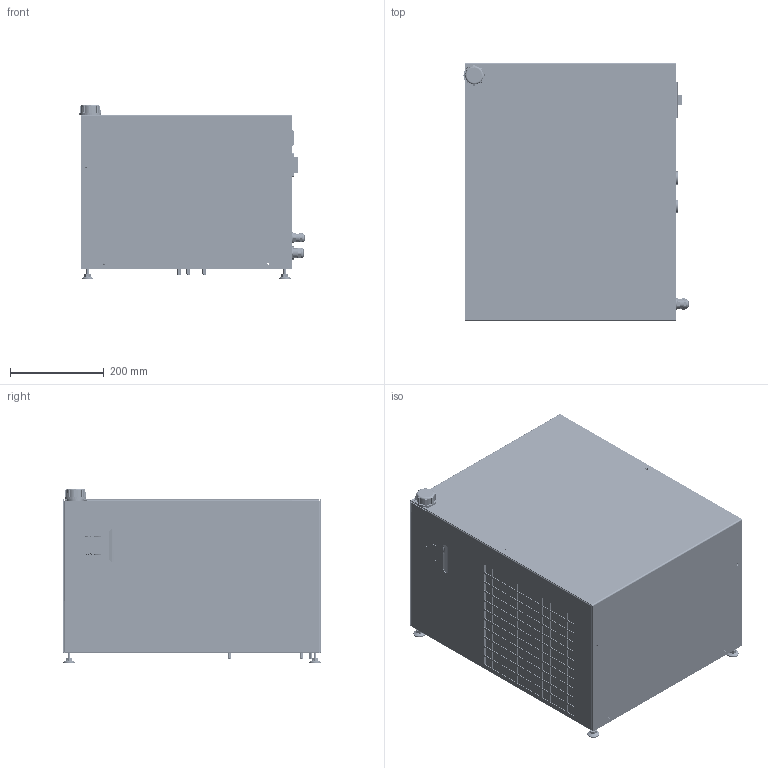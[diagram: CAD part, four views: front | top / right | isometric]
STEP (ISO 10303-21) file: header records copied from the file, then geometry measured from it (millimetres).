
FILE_DESCRIPTION (( 'STEP AP203' ), '1' );
FILE_NAME ('COPIA_LPH-12-D_REV_00.STEP', '2026-07-23T09:20:55', ( '' ), ( '' ), 'SwSTEP 2.0', 'SolidWorks 2023', '' );
FILE_SCHEMA (( 'CONFIG_CONTROL_DESIGN' ));
Length unit declared in the file: millimetre
Products named in the file (22): COPIA_ZE-PR-00002_000; COPIA_VR-1C-00062_000; COPIA_ZE-PR-00003_Cable-Gland-1.209.1102.15-Nelco; COPIA_LPH-12-D_REV_00; COPIA_VR-1C-00067_001; COPIA_PG 9_2_Nut-PA-Grey-19-19-22-Nelco; COPIA_ST-AT-00028_003; COPIA_ZP-TA-00006_1; Parte4^COPIA_43-MI-E0001; COPIA_pg11 part1_Socket-1.209.1102.15-Nelco; COPIA_ZE-GH-00002_000; COPIA_CS-PL-00042_002; COPIA_PG 9_Cable-Gland-1.209.0900.14-Nelco; COPIA_TE-EL-00007 - EW_971_230V; COPIA_pg11 part2_Nut-PA-Blue-22-22-25-Nelco; COPIA_50-1C-00025; COPIA_CO-CF-00012_1140270C01; COPIA_AN-PI-00023_000; COPIA_43-MI-E0001_43-MI-E0001-CONDENSATORE; COPIA_SE-RP-00045_001; COPIA_PG 9_1_Socket-1.209.0900.14-Nelco; COPIA_ZE-PU-00001_INTERRUTTORE LUMINOSO
Assembly tree (25 placements, depth 4):
  COPIA_LPH-12-D_REV_00
    COPIA_43-MI-E0001_43-MI-E0001-CONDENSATORE
      COPIA_50-1C-00025
        COPIA_VR-1C-00067_001
        COPIA_VR-1C-00062_000
        COPIA_AN-PI-00023_000  x4
      COPIA_CO-CF-00012_1140270C01
      COPIA_CS-PL-00042_002
    COPIA_ST-AT-00028_003  x2
    COPIA_SE-RP-00045_001
    COPIA_ZP-TA-00006_1
    COPIA_ZE-PU-00001_INTERRUTTORE LUMINOSO
    COPIA_TE-EL-00007 - EW_971_230V
    COPIA_ZE-PR-00002_000
      COPIA_PG 9_Cable-Gland-1.209.0900.14-Nelco
        COPIA_PG 9_1_Socket-1.209.0900.14-Nelco
        COPIA_PG 9_2_Nut-PA-Grey-19-19-22-Nelco
      COPIA_ZE-GH-00002_000  x2
    COPIA_ZE-PR-00003_Cable-Gland-1.209.1102.15-Nelco
      COPIA_pg11 part1_Socket-1.209.1102.15-Nelco
      COPIA_pg11 part2_Nut-PA-Blue-22-22-25-Nelco
  Parte4^COPIA_43-MI-E0001
Bounding box: 479.42 x 550 x 372 mm (x, y, z)
Volume: 8844487 mm3; surface area: 4881479.2 mm2
Topology: 104 solids, 123 shells, 5430 faces, 13892 edges, 8869 vertices
Faces by surface type: plane 2819, cylinder 1542, torus 724, cone 225, bspline 120
Entity records: 193961 total; most frequent: CARTESIAN_POINT 59843, DIRECTION 27720, ORIENTED_EDGE 26816, EDGE_CURVE 13408, AXIS2_PLACEMENT_3D 9768, VERTEX_POINT 8593, VECTOR 8184, LINE 8184
